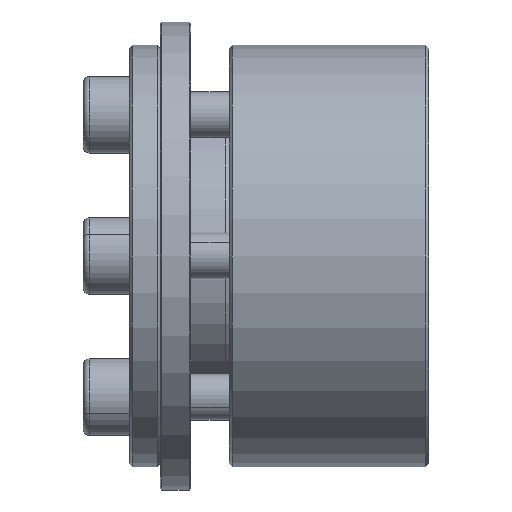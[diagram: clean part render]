
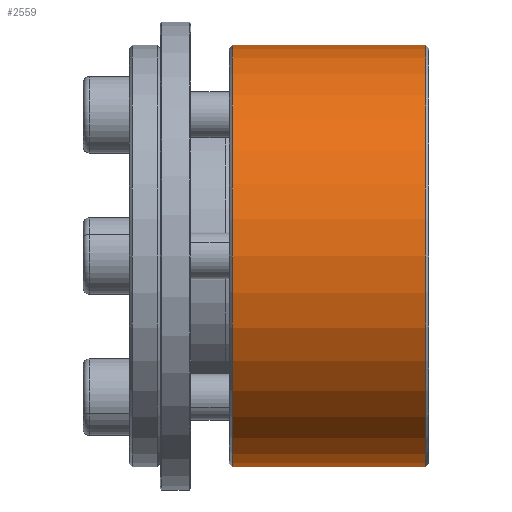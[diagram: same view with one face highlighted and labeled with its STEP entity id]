
A CAD part, front view. The second image highlights one B-rep face of the part: STEP entity #2559.
In plain terms, the highlighted cylindrical face has radius 27.46 mm (diameter 54.92 mm), a partial arc.
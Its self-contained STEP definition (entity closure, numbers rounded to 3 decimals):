
#91 = CARTESIAN_POINT ( 'NONE',  ( -92.766, 26.04, 27.46 ) ) ;
#318 = ORIENTED_EDGE ( 'NONE', *, *, #841, .F. ) ;
#481 = VERTEX_POINT ( 'NONE', #2260 ) ;
#546 = DIRECTION ( 'NONE',  ( -1., 0., 0. ) ) ;
#809 = VERTEX_POINT ( 'NONE', #7301 ) ;
#841 = EDGE_CURVE ( 'NONE', #481, #1296, #2213, .T. ) ;
#1279 = FACE_OUTER_BOUND ( 'NONE', #7376, .T. ) ;
#1296 = VERTEX_POINT ( 'NONE', #4693 ) ;
#1610 = VERTEX_POINT ( 'NONE', #1764 ) ;
#1672 = DIRECTION ( 'NONE',  ( 0., 0., 1. ) ) ;
#1764 = CARTESIAN_POINT ( 'NONE',  ( -67.166, 26.04, 27.46 ) ) ;
#1901 = VECTOR ( 'NONE', #546, 1000. ) ;
#1982 = AXIS2_PLACEMENT_3D ( 'NONE', #3464, #6231, #1672 ) ;
#2108 = AXIS2_PLACEMENT_3D ( 'NONE', #7060, #5854, #3500 ) ;
#2180 = DIRECTION ( 'NONE',  ( -1., 0., 0. ) ) ;
#2213 = LINE ( 'NONE', #3355, #5164 ) ;
#2260 = CARTESIAN_POINT ( 'NONE',  ( -67.166, 26.04, -27.46 ) ) ;
#2445 = EDGE_CURVE ( 'NONE', #481, #1610, #7413, .T. ) ;
#2547 = AXIS2_PLACEMENT_3D ( 'NONE', #4843, #6183, #7478 ) ;
#2559 = ADVANCED_FACE ( 'NONE', ( #1279 ), #5370, .T. ) ;
#3355 = CARTESIAN_POINT ( 'NONE',  ( -92.766, 26.04, -27.46 ) ) ;
#3464 = CARTESIAN_POINT ( 'NONE',  ( -67.166, 26.04, 0. ) ) ;
#3500 = DIRECTION ( 'NONE',  ( 0., 0., 1. ) ) ;
#4613 = ORIENTED_EDGE ( 'NONE', *, *, #5011, .T. ) ;
#4644 = LINE ( 'NONE', #91, #1901 ) ;
#4693 = CARTESIAN_POINT ( 'NONE',  ( -92.366, 26.04, -27.46 ) ) ;
#4843 = CARTESIAN_POINT ( 'NONE',  ( -92.366, 26.04, 0. ) ) ;
#5011 = EDGE_CURVE ( 'NONE', #1610, #809, #4644, .T. ) ;
#5164 = VECTOR ( 'NONE', #2180, 1000. ) ;
#5314 = CIRCLE ( 'NONE', #2547, 27.46 ) ;
#5370 = CYLINDRICAL_SURFACE ( 'NONE', #2108, 27.46 ) ;
#5854 = DIRECTION ( 'NONE',  ( -1., 0., 0. ) ) ;
#6183 = DIRECTION ( 'NONE',  ( 1., 0., 0. ) ) ;
#6231 = DIRECTION ( 'NONE',  ( -1., 0., 0. ) ) ;
#6415 = ORIENTED_EDGE ( 'NONE', *, *, #2445, .T. ) ;
#7060 = CARTESIAN_POINT ( 'NONE',  ( -92.766, 26.04, 0. ) ) ;
#7301 = CARTESIAN_POINT ( 'NONE',  ( -92.366, 26.04, 27.46 ) ) ;
#7307 = ORIENTED_EDGE ( 'NONE', *, *, #7388, .T. ) ;
#7376 = EDGE_LOOP ( 'NONE', ( #318, #6415, #4613, #7307 ) ) ;
#7388 = EDGE_CURVE ( 'NONE', #809, #1296, #5314, .T. ) ;
#7413 = CIRCLE ( 'NONE', #1982, 27.46 ) ;
#7478 = DIRECTION ( 'NONE',  ( 0., 0., -1. ) ) ;
